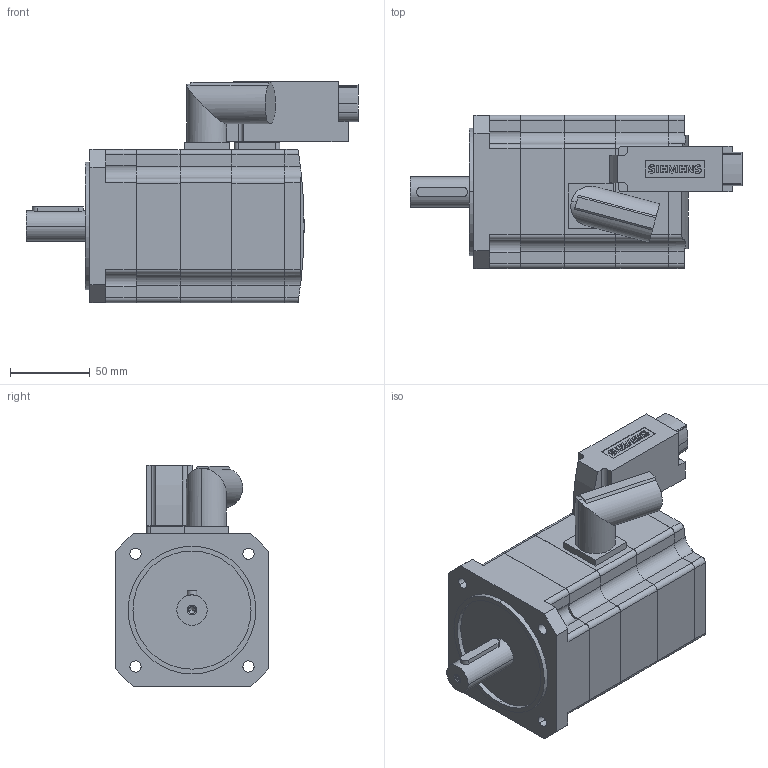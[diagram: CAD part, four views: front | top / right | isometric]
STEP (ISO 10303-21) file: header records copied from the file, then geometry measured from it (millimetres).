
FILE_DESCRIPTION(('STEP AP214'),'1');
FILE_NAME('cctmp_C7ED014F-35D8-43E9-A498-910687C87A68_2023_02_03_19_27_18_0348..stp','2023-02-03T18:27:18',('SIEMENS A&D'),('CADClick - www.CADClick.com'),'Spatial InterOp 3D',' ','unknown authorization');
FILE_SCHEMA(('AUTOMOTIVE_DESIGN'));
Length unit declared in the file: millimetre
Products named in the file (1): 1FK7040-5AK71-1PA0
Bounding box: 207.99 x 96 x 138.7 mm (x, y, z)
Volume: 1190625.2 mm3; surface area: 90254 mm2
Topology: 1 solids, 1 shells, 493 faces, 1375 edges, 907 vertices
Faces by surface type: plane 252, cylinder 129, extrusion 98, cone 14
Entity records: 25947 total; most frequent: CARTESIAN_POINT 5016, ORIENTED_EDGE 2746, DIRECTION 2333, STYLED_ITEM 1384, PRESENTATION_STYLE_ASSIGNMENT 1384, COLOUR_RGB 1384, EDGE_CURVE 1373, VECTOR 949
